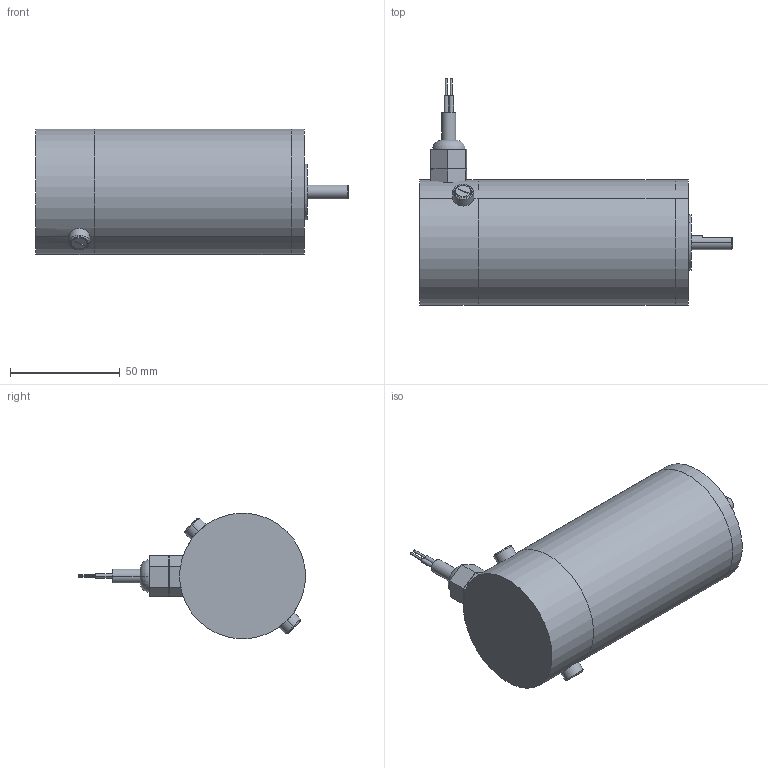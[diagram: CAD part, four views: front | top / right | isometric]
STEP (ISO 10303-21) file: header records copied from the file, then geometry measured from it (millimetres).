
FILE_DESCRIPTION (( 'STEP AP203' ), '1' );
FILE_NAME ('d22490.step', '2022-05-11T15:25:04', ( '' ), ( '' ), 'SwSTEP 2.0', 'SolidWorks 2017', '' );
FILE_SCHEMA (( 'CONFIG_CONTROL_DESIGN' ));
Length unit declared in the file: millimetre
Products named in the file (1): d22490
Bounding box: 142.29 x 102.92 x 56.93 mm (x, y, z)
Volume: 319019.4 mm3; surface area: 41303.4 mm2
Topology: 7 solids, 7 shells, 187 faces, 409 edges, 250 vertices
Faces by surface type: plane 92, cylinder 66, cone 19, torus 6, sphere 4
Entity records: 5345 total; most frequent: CARTESIAN_POINT 1041, DIRECTION 968, ORIENTED_EDGE 802, EDGE_CURVE 401, AXIS2_PLACEMENT_3D 387, VERTEX_POINT 250, EDGE_LOOP 217, CIRCLE 199
